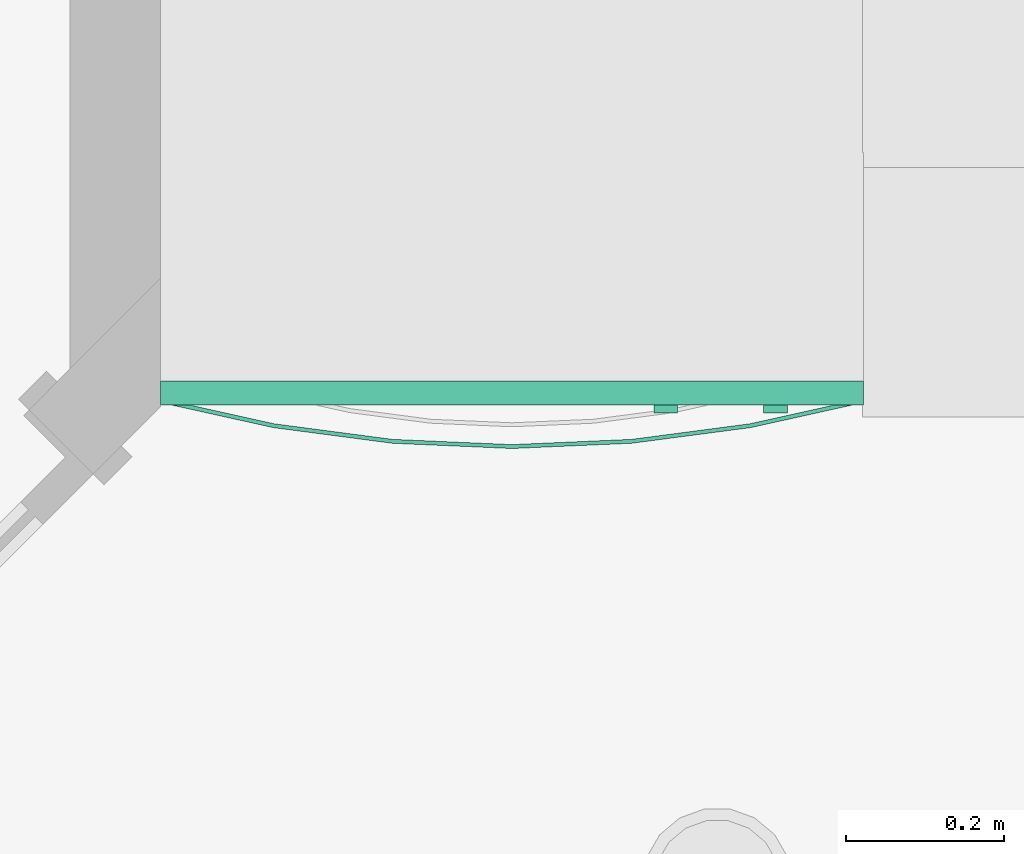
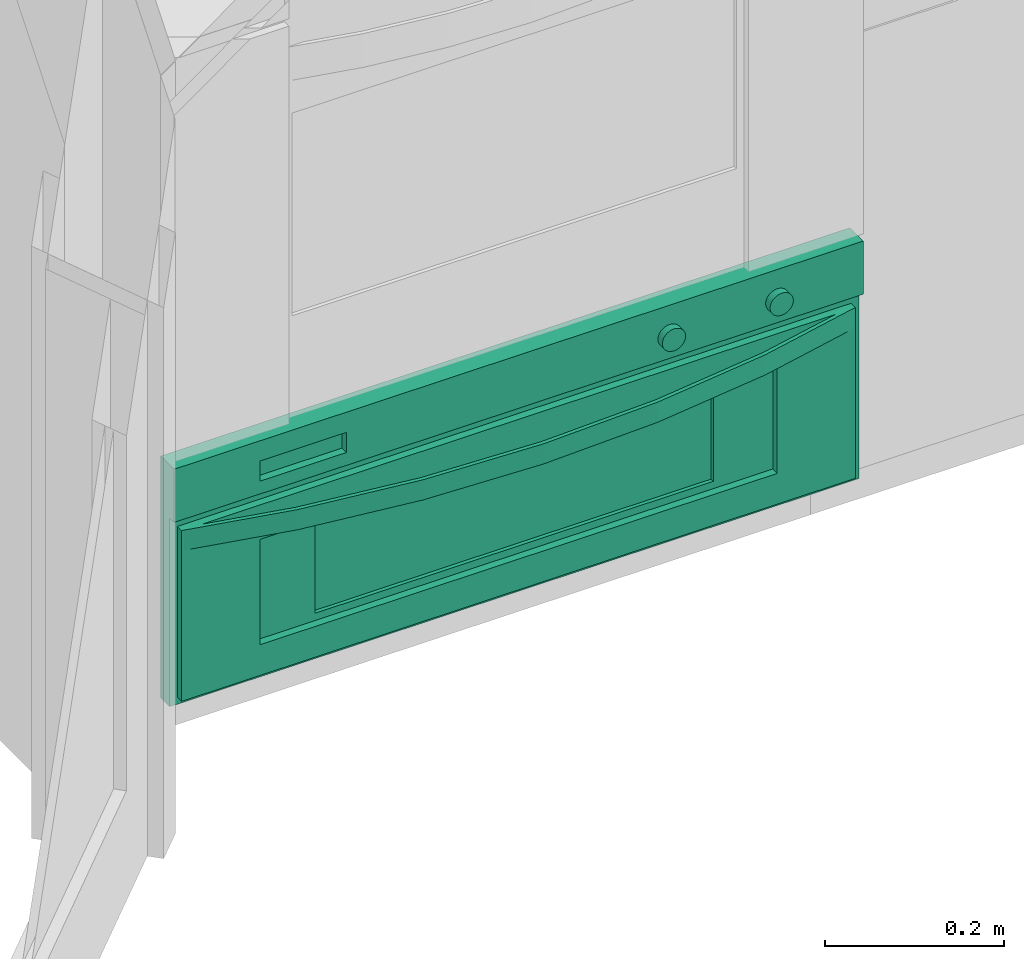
# One storey, part 54 of 77: 1 flow terminal.
"""IFC2X3 building model written with IfcOpenShell, lengths in inches."""

import ifcopenshell
import ifcopenshell.guid

model = None  # the IFC model being written
_history = None  # IfcOwnerHistory: only IFC2X3 demands one
_inside = {}  # id of a spatial element -> (the spatial element, [elements in it])
_under = {}  # id of a project, library or spatial element -> (it, [spatial elements below it])
_declared = {}  # id of a project -> (the project, [libraries it declares])
_typed = {}  # id of a type object -> (the type object, [elements of that type])
_made_of = {}  # id of a material, layer set ... -> (it, [elements and type objects made of it])


def new_model(schema):
    """Start an empty IFC model of exactly this schema.

    Asked for "IFC4X3", IfcOpenShell would pick the latest addendum, in which some entities
    have other attributes; the version numbers below select the first issue.
    IFC2X3 requires an IfcOwnerHistory on every rooted entity: one is made here for all.
    """
    global model, _history
    if schema == "IFC4X3":
        model = ifcopenshell.file(schema_version=(4, 3, 0, 0))
    else:
        model = ifcopenshell.file(schema=schema)
    _inside.clear()
    _under.clear()
    _declared.clear()
    _typed.clear()
    _made_of.clear()
    _history = None
    if model.schema == "IFC2X3":
        org = make("IfcOrganization", Name="unknown")
        user = make(
            "IfcPersonAndOrganization",
            ThePerson=make("IfcPerson", FamilyName="unknown"),
            TheOrganization=org,
        )
        app = make(
            "IfcApplication",
            ApplicationDeveloper=org,
            Version="unknown",
            ApplicationFullName="unknown",
            ApplicationIdentifier="unknown",
        )
        _history = make(
            "IfcOwnerHistory",
            OwningUser=user,
            OwningApplication=app,
            ChangeAction="ADDED",
            CreationDate=0,
        )
    return model


def make(cls, **values):
    """One entity of the class cls with the attributes given. An attribute that is None is left unset."""
    return model.create_entity(
        cls, **{name: value for name, value in values.items() if value is not None}
    )


def entity(cls, *values):
    """Any entity or typed value of the class cls, its attributes in the order of the schema. None: left unset."""
    e = model.create_entity(cls)
    for i, value in enumerate(values):
        if value is not None:
            e[i] = value
    return e


def rooted(cls, **values):
    """An entity with a GlobalId (a new one), such as an element, a storey or a relation."""
    return make(cls, GlobalId=ifcopenshell.guid.new(), OwnerHistory=_history, **values)


def si_unit(unit_type, name, prefix=None):
    """IfcSIUnit, for example si_unit("LENGTHUNIT", "METRE", prefix="MILLI")."""
    return make("IfcSIUnit", UnitType=unit_type, Prefix=prefix, Name=name)


def converted_unit(unit_type, name, factor, base, dimensions=None, offset=None):
    """IfcConversionBasedUnit, such as the inch: factor (a typed value) times the base unit."""
    return make(
        "IfcConversionBasedUnit"
        if offset is None
        else "IfcConversionBasedUnitWithOffset",
        ConversionOffset=offset,
        Dimensions=None
        if dimensions is None
        else entity("IfcDimensionalExponents", *dimensions),
        UnitType=unit_type,
        Name=name,
        ConversionFactor=make(
            "IfcMeasureWithUnit", ValueComponent=factor, UnitComponent=base
        ),
    )


def derived_unit(unit_type, elements):
    """IfcDerivedUnit: a product of units, each with its exponent."""
    return make(
        "IfcDerivedUnit",
        Elements=[
            make("IfcDerivedUnitElement", Unit=unit, Exponent=power)
            for unit, power in elements
        ],
        UnitType=unit_type,
    )


def money_unit(currency):
    """IfcMonetaryUnit."""
    return make("IfcMonetaryUnit", Currency=currency)


def assignment(units):
    """IfcUnitAssignment: the units of a project."""
    return None if units is None else make("IfcUnitAssignment", Units=units)


def point(xyz):
    """IfcCartesianPoint."""
    return None if xyz is None else make("IfcCartesianPoint", Coordinates=xyz)


def direction(xyz):
    """IfcDirection."""
    return None if xyz is None else make("IfcDirection", DirectionRatios=xyz)


def frame(location, z_axis=None, x_axis=None):
    """IfcAxis2Placement3D, a coordinate frame: its origin and axes. An axis left out is left unset."""
    return make(
        "IfcAxis2Placement3D",
        Location=point(location),
        Axis=direction(z_axis),
        RefDirection=direction(x_axis),
    )


def origin_with_axes():
    """The frame at (0, 0, 0) with the z axis (0, 0, 1) and the x axis (1, 0, 0) written out."""
    return frame((0.0, 0.0, 0.0), z_axis=(0.0, 0.0, 1.0), x_axis=(1.0, 0.0, 0.0))


def place(relative_to, where):
    """IfcLocalPlacement: puts the frame where relative to a parent placement (None: the world)."""
    return make(
        "IfcLocalPlacement", PlacementRelTo=relative_to, RelativePlacement=where
    )


def context(
    kind, dimensions, precision=None, world=None, true_north=None, identifier=None
):
    """IfcGeometricRepresentationContext, for example the 3D "Model" context."""
    return make(
        "IfcGeometricRepresentationContext",
        ContextIdentifier=identifier,
        ContextType=kind,
        CoordinateSpaceDimension=dimensions,
        Precision=precision,
        WorldCoordinateSystem=world,
        TrueNorth=true_north,
    )


def subcontext(parent, identifier, kind, view, scale=None):
    """IfcGeometricRepresentationSubContext, for example "Body" below "Model"."""
    return make(
        "IfcGeometricRepresentationSubContext",
        ContextIdentifier=identifier,
        ContextType=kind,
        ParentContext=parent,
        TargetScale=scale,
        TargetView=view,
    )


def project(units=None, contexts=None):
    """IfcProject with its units and contexts."""
    return rooted(
        "IfcProject",
        Name="project",
        RepresentationContexts=contexts,
        UnitsInContext=assignment(units),
    )


def spatial(cls, under=None, at=None, **own):
    """A site, building, storey or space (cls), placed at a placement, below another one or the project."""
    s = rooted(cls, ObjectPlacement=at, **own)
    if under is not None:
        _under.setdefault(under.id(), (under, []))[1].append(s)
    return s


def faces_of(points, faces, orient=None, outer=None):
    """IfcFace entities. A face is a list of loops; a loop is a list of indices into points, from 0.

    orient and outer hold one flag for each loop. By default every Orientation is true, the
    first loop of a face is its IfcFaceOuterBound and the others are IfcFaceBound.
    """
    made = []
    for i, loops in enumerate(faces):
        bounds = []
        for j, loop in enumerate(loops):
            is_outer = j == 0 if outer is None else outer[i][j]
            bounds.append(
                make(
                    "IfcFaceOuterBound" if is_outer else "IfcFaceBound",
                    Bound=make("IfcPolyLoop", Polygon=[points[k] for k in loop]),
                    Orientation=True if orient is None else orient[i][j],
                )
            )
        made.append(make("IfcFace", Bounds=bounds))
    return made


def faceted_brep(points, faces, orient=None, outer=None, voids=None):
    """IfcFacetedBrep: a solid bounded by flat faces; with voids (closed shells), ...WithVoids."""
    shared = [point(p) for p in points]
    hull = make("IfcClosedShell", CfsFaces=faces_of(shared, faces, orient, outer))
    if voids is None:
        return make("IfcFacetedBrep", Outer=hull)
    return make(
        "IfcFacetedBrepWithVoids",
        Outer=hull,
        Voids=[
            make(cls, CfsFaces=faces_of(shared, fs, o, b)) for cls, fs, o, b in voids
        ],
    )


def shape(context_of_items, identifier, shape_type, items):
    """IfcShapeRepresentation: the items that make up one representation, for example the "Body"."""
    return make(
        "IfcShapeRepresentation",
        ContextOfItems=context_of_items,
        RepresentationIdentifier=identifier,
        RepresentationType=shape_type,
        Items=items,
    )


def made_of(thing, what):
    """Note that an element or type object is made of a material, layer set ...; save() writes the relation."""
    if what is not None:
        _made_of.setdefault(what.id(), (what, []))[1].append(thing)
    return thing


def type_object(cls, material=None, **own):
    """A type object (cls), such as IfcWallType, which elements share."""
    return made_of(rooted(cls, **own), material)


def element(
    cls,
    number,
    at=None,
    inside=None,
    cuts=None,
    type_object=None,
    material=None,
    context=None,
    identifier="Body",
    shape_type=None,
    held_by="IfcProductDefinitionShape",
    body=None,
    shapes=None,
    **own,
):
    """One element of the class cls, such as IfcWall. Its Tag is "e" and its number.

    at: its placement. inside: the storey or other place that contains it. cuts: it is an
    opening in that element (IfcRelVoidsElement). A single representation is given by context,
    identifier, shape_type and body (its items); several are given by shapes. held_by: the class
    of the entity that holds the representations. save() writes the other relations.
    """
    e = rooted(cls, Tag="e%d" % number, ObjectPlacement=at, **own)
    if body is not None:
        shapes = [shape(context, identifier, shape_type, body)]
    if shapes is not None:
        e.Representation = make(held_by, Representations=shapes)
    if inside is not None:
        _inside.setdefault(inside.id(), (inside, []))[1].append(e)
    if cuts is not None:
        rooted(
            "IfcRelVoidsElement", RelatingBuildingElement=cuts, RelatedOpeningElement=e
        )
    if type_object is not None:
        _typed.setdefault(type_object.id(), (type_object, []))[1].append(e)
    return made_of(e, material)


def aggregate(whole, parts):
    """IfcRelAggregates: a whole, such as a stair, and the parts it consists of."""
    return rooted("IfcRelAggregates", RelatingObject=whole, RelatedObjects=parts)


def save(model, path):
    """Write the relations noted so far, then the file.

    IfcRelAggregates (storeys below a building ...), IfcRelContainedInSpatialStructure (elements
    in a storey), IfcRelDefinesByType, IfcRelAssociatesMaterial and IfcRelDeclares: one each for
    every whole, place, type object, material and project.
    """
    for whole, parts in _under.values():
        aggregate(whole, parts)
    for where, things in _inside.values():
        rooted(
            "IfcRelContainedInSpatialStructure",
            RelatedElements=things,
            RelatingStructure=where,
        )
    for kind, things in _typed.values():
        rooted("IfcRelDefinesByType", RelatedObjects=things, RelatingType=kind)
    for what, things in _made_of.values():
        rooted("IfcRelAssociatesMaterial", RelatedObjects=things, RelatingMaterial=what)
    for by, libraries in _declared.values():
        rooted("IfcRelDeclares", RelatingContext=by, RelatedDefinitions=libraries)
    model.write(path)


model = new_model("IFC2X3")

# Units and contexts
model_context = context("Model", 3, precision=0.000393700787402, world=origin_with_axes(), true_north=direction((0.0, 1.0)))
body_context = subcontext(model_context, "Body", "Model", "MODEL_VIEW")
ifc_project = project(units=[converted_unit("LENGTHUNIT", "INCH", entity("IfcPositiveLengthMeasure", 0.0254), si_unit("LENGTHUNIT", "METRE"), dimensions=[1, 0, 0, 0, 0, 0, 0]), converted_unit("AREAUNIT", "SQUARE_FOOT", entity("IfcPositiveLengthMeasure", 0.09290304), si_unit("AREAUNIT", "SQUARE_METRE"), dimensions=[2, 0, 0, 0, 0, 0, 0]), si_unit("PLANEANGLEUNIT", "RADIAN"), si_unit("SOLIDANGLEUNIT", "STERADIAN"), money_unit("USD"), converted_unit("TIMEUNIT", "Year", entity("IfcTimeMeasure", 31556926.0), si_unit("TIMEUNIT", "SECOND"), dimensions=[0, 0, 1, 0, 0, 0, 0]), si_unit("MASSUNIT", "GRAM", prefix="KILO"), si_unit("THERMODYNAMICTEMPERATUREUNIT", "DEGREE_CELSIUS"), si_unit("LUMINOUSINTENSITYUNIT", "LUMEN"), si_unit("ENERGYUNIT", "JOULE", prefix="MEGA"), derived_unit("THERMALCONDUCTANCEUNIT", [(si_unit("POWERUNIT", "WATT"), 1), (si_unit("LENGTHUNIT", "METRE"), -1), (si_unit("THERMODYNAMICTEMPERATUREUNIT", "KELVIN"), -1)]), derived_unit("SPECIFICHEATCAPACITYUNIT", [(si_unit("ENERGYUNIT", "JOULE"), 1), (si_unit("MASSUNIT", "GRAM", prefix="KILO"), -1), (si_unit("THERMODYNAMICTEMPERATUREUNIT", "KELVIN"), -1)]), derived_unit("MASSDENSITYUNIT", [(si_unit("MASSUNIT", "GRAM", prefix="KILO"), 1), (si_unit("VOLUMEUNIT", "CUBIC_METRE"), -1)])], contexts=[model_context])

# Site, building, storey
site_placement = place(None, origin_with_axes())
site = spatial("IfcSite", under=ifc_project, at=site_placement, Name="Site", CompositionType="ELEMENT")
building_placement = place(site_placement, origin_with_axes())
building = spatial("IfcBuilding", under=site, at=building_placement, Name="Building", CompositionType="ELEMENT")
storey_placement = place(building_placement, frame((0.0, 0.0, 127.952755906), z_axis=(0.0, 0.0, 1.0), x_axis=(1.0, 0.0, 0.0)))
storey = spatial("IfcBuildingStorey", under=building, at=storey_placement, Name="Second Floor", CompositionType="ELEMENT", Elevation=127.953)

# Flow terminal
electric_appliance_type = type_object("IfcElectricApplianceType", Name="Oven Built-in 25", PredefinedType="NOTDEFINED")
flow_terminal_placement = place(storey_placement, frame((511.489643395, 384.399400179, 4.52755905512), z_axis=(0.0, 0.0, 1.0), x_axis=(1.0, 0.0, 0.0)))
element("IfcFlowTerminal", 1, at=flow_terminal_placement, inside=storey, type_object=electric_appliance_type, Name="OBJ-20", context=body_context, shape_type="Brep", body=[
    faceted_brep([(0.0, 0.787401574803, 0.0), (35.0393700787, 0.787401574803, 0.0), (35.0393700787, 0.0, 0.0), (0.0, 0.0, 0.0), (0.0, 0.787401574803, 13.0), (35.0393700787, 0.787401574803, 13.0), (7.40157480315, 0.787401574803, 2.4375), (27.6377952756, 0.787401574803, 2.4375), (27.6377952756, 0.787401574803, 7.3125), (7.40157480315, 0.787401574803, 7.3125), (35.0393700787, 0.0, 13.0), (0.0, 0.0, 13.0), (7.40157480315, 0.0, 2.4375), (7.40157480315, 0.0, 7.3125), (27.6377952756, 0.0, 7.3125), (27.6377952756, 0.0, 2.4375)], [[[0, 1, 2, 3]], [[0, 4, 5, 1], [6, 7, 8, 9]], [[1, 5, 10, 2]], [[3, 2, 10, 11], [12, 13, 14, 15]], [[4, 0, 3, 11]], [[5, 4, 11, 10]], [[7, 6, 12, 15]], [[8, 7, 15, 14]], [[9, 8, 14, 13]], [[6, 9, 13, 12]]]),
    faceted_brep([(7.40157480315, 0.590551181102, 2.4375), (27.6377952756, 0.590551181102, 2.4375), (27.6377952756, 0.196850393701, 2.4375), (7.40157480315, 0.196850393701, 2.4375), (7.40157480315, 0.590551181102, 7.3125), (27.6377952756, 0.590551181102, 7.3125), (27.6377952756, 0.196850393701, 7.3125), (7.40157480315, 0.196850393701, 7.3125)], [[[0, 1, 2, 3]], [[0, 4, 5, 1]], [[1, 5, 6, 2]], [[3, 2, 6, 7]], [[4, 0, 3, 7]], [[5, 4, 7, 6]]]),
    faceted_brep([(0.393700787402, 0.0, 0.393700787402), (34.6456692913, 0.0, 0.393700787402), (34.6456692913, -0.393700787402, 0.393700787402), (0.393700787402, -0.393700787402, 0.393700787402), (0.393700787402, 0.0, 9.5531496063), (34.6456692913, 0.0, 9.5531496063), (4.37992125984, 0.0, 2.0437992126), (30.6594488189, 0.0, 2.0437992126), (30.6594488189, 0.0, 7.7062007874), (4.37992125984, 0.0, 7.7062007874), (34.6456692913, -0.393700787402, 9.5531496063), (0.393700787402, -0.393700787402, 9.5531496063), (4.37992125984, -0.393700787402, 2.0437992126), (4.37992125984, -0.393700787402, 7.7062007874), (30.6594488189, -0.393700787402, 7.7062007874), (30.6594488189, -0.393700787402, 2.0437992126)], [[[0, 1, 2, 3]], [[0, 4, 5, 1], [6, 7, 8, 9]], [[1, 5, 10, 2]], [[3, 2, 10, 11], [12, 13, 14, 15]], [[4, 0, 3, 11]], [[5, 4, 11, 10]], [[7, 6, 12, 15]], [[8, 7, 15, 14]], [[9, 8, 14, 13]], [[6, 9, 13, 12]]]),
    faceted_brep([(0.0, 0.0, 10.1437007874), (35.0393700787, 0.0, 10.1437007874), (35.0393700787, -0.393700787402, 10.1437007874), (0.0, -0.393700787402, 10.1437007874), (0.0, 0.0, 13.0), (35.0393700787, 0.0, 13.0), (4.37992125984, 0.0, 11.9166666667), (4.37992125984, 0.0, 10.8333333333), (8.75984251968, 0.0, 10.8333333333), (8.75984251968, 0.0, 11.9166666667), (35.0393700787, -0.393700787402, 13.0), (0.0, -0.393700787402, 13.0), (4.37992125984, -0.393700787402, 11.9166666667), (8.75984251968, -0.393700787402, 11.9166666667), (8.75984251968, -0.393700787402, 10.8333333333), (4.37992125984, -0.393700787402, 10.8333333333)], [[[0, 1, 2, 3]], [[0, 4, 5, 1], [6, 7, 8, 9]], [[1, 5, 10, 2]], [[3, 2, 10, 11], [12, 13, 14, 15]], [[4, 0, 3, 11]], [[5, 4, 11, 10]], [[7, 6, 12, 15]], [[8, 7, 15, 14]], [[9, 8, 14, 13]], [[6, 9, 13, 12]]]),
    faceted_brep([(0.506447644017, -0.393700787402, 8.46981627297), (5.62410121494, -1.52825726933, 8.46981627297), (5.62410121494, -1.52825726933, 9.5531496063), (0.506447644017, -0.393700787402, 9.5531496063), (34.5329224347, -0.393700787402, 8.46981627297), (29.4152688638, -1.52825726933, 8.46981627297), (23.4901965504, -2.30830783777, 8.46981627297), (17.5196850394, -2.56898599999, 8.46981627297), (11.5491735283, -2.30830783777, 8.46981627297), (1.41507537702, -0.393700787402, 8.46981627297), (5.65828392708, -1.33439747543, 8.46981627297), (11.5663301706, -2.11220651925, 8.46981627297), (17.5196850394, -2.37213560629, 8.46981627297), (23.4730399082, -2.11220651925, 8.46981627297), (29.3810861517, -1.33439747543, 8.46981627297), (33.6242947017, -0.393700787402, 8.46981627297), (11.5491735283, -2.30830783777, 9.5531496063), (17.5196850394, -2.56898599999, 9.5531496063), (23.4901965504, -2.30830783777, 9.5531496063), (29.4152688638, -1.52825726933, 9.5531496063), (34.5329224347, -0.393700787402, 9.5531496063), (33.6242947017, -0.393700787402, 9.5531496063), (29.3810861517, -1.33439747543, 9.5531496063), (23.4730399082, -2.11220651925, 9.5531496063), (17.5196850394, -2.37213560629, 9.5531496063), (11.5663301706, -2.11220651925, 9.5531496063), (5.65828392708, -1.33439747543, 9.5531496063), (1.41507537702, -0.393700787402, 9.5531496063)], [[[0, 1, 2, 3]], [[4, 5, 6, 7, 8, 1, 0, 9, 10, 11, 12, 13, 14, 15]], [[1, 8, 16, 2]], [[3, 2, 16, 17, 18, 19, 20, 21, 22, 23, 24, 25, 26, 27]], [[0, 3, 27, 9]], [[5, 4, 20, 19]], [[6, 5, 19, 18]], [[7, 6, 18, 17]], [[8, 7, 17, 16]], [[10, 9, 27, 26]], [[11, 10, 26, 25]], [[12, 11, 25, 24]], [[13, 12, 24, 23]], [[14, 13, 23, 22]], [[15, 14, 22, 21]], [[4, 15, 21, 20]]]),
    faceted_brep([(31.2477527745, -0.393700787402, 11.3235300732), (31.2410282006, -0.393700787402, 11.2724518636), (31.2298774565, -0.393700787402, 11.2221541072), (31.214385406, -0.393700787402, 11.1730196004), (31.194669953, -0.393700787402, 11.1254222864), (31.170881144, -0.393700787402, 11.0797244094), (31.1432000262, -0.393700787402, 11.0362737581), (31.1118372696, -0.393700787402, 10.9954010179), (31.0770315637, -0.393700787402, 10.9574172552), (31.039047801, -0.393700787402, 10.9226115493), (30.9981750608, -0.393700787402, 10.8912487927), (30.9547244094, -0.393700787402, 10.8635676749), (30.9090265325, -0.393700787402, 10.8397788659), (30.8614292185, -0.393700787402, 10.8200634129), (30.8122947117, -0.393700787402, 10.8045713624), (30.7619969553, -0.393700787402, 10.7934206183), (30.7109187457, -0.393700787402, 10.7866960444), (30.6594488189, -0.393700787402, 10.7844488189), (30.6079788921, -0.393700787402, 10.7866960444), (30.5569006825, -0.393700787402, 10.7934206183), (30.5066029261, -0.393700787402, 10.8045713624), (30.4574684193, -0.393700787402, 10.8200634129), (30.4098711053, -0.393700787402, 10.8397788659), (30.3641732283, -0.393700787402, 10.8635676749), (30.320722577, -0.393700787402, 10.8912487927), (30.2798498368, -0.393700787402, 10.9226115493), (30.2418660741, -0.393700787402, 10.9574172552), (30.2070603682, -0.393700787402, 10.9954010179), (30.1756976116, -0.393700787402, 11.0362737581), (30.1480164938, -0.393700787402, 11.0797244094), (30.1242276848, -0.393700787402, 11.1254222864), (30.1045122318, -0.393700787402, 11.1730196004), (30.0890201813, -0.393700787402, 11.2221541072), (30.0778694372, -0.393700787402, 11.2724518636), (30.0711448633, -0.393700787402, 11.3235300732), (30.0688976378, -0.393700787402, 11.375), (30.0711448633, -0.393700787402, 11.4264699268), (30.0778694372, -0.393700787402, 11.4775481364), (30.0890201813, -0.393700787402, 11.5278458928), (30.1045122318, -0.393700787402, 11.5769803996), (30.1242276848, -0.393700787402, 11.6245777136), (30.1480164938, -0.393700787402, 11.6702755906), (30.1756976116, -0.393700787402, 11.7137262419), (30.2070603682, -0.393700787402, 11.7545989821), (30.2418660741, -0.393700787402, 11.7925827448), (30.2798498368, -0.393700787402, 11.8273884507), (30.320722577, -0.393700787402, 11.8587512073), (30.3641732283, -0.393700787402, 11.8864323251), (30.4098711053, -0.393700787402, 11.9102211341), (30.4574684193, -0.393700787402, 11.9299365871), (30.5066029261, -0.393700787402, 11.9454286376), (30.5569006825, -0.393700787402, 11.9565793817), (30.6079788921, -0.393700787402, 11.9633039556), (30.6594488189, -0.393700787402, 11.9655511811), (30.7109187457, -0.393700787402, 11.9633039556), (30.7619969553, -0.393700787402, 11.9565793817), (30.8122947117, -0.393700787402, 11.9454286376), (30.8614292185, -0.393700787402, 11.9299365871), (30.9090265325, -0.393700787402, 11.9102211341), (30.9547244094, -0.393700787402, 11.8864323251), (30.9981750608, -0.393700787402, 11.8587512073), (31.039047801, -0.393700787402, 11.8273884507), (31.0770315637, -0.393700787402, 11.7925827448), (31.1118372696, -0.393700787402, 11.7545989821), (31.1432000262, -0.393700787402, 11.7137262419), (31.170881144, -0.393700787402, 11.6702755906), (31.194669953, -0.393700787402, 11.6245777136), (31.214385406, -0.393700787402, 11.5769803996), (31.2298774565, -0.393700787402, 11.5278458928), (31.2410282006, -0.393700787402, 11.4775481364), (31.2477527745, -0.393700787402, 11.4264699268), (31.25, -0.393700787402, 11.375), (31.2477527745, -0.787401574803, 11.3235300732), (31.2410282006, -0.787401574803, 11.2724518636), (31.2298774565, -0.787401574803, 11.2221541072), (31.214385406, -0.787401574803, 11.1730196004), (31.194669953, -0.787401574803, 11.1254222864), (31.170881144, -0.787401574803, 11.0797244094), (31.1432000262, -0.787401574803, 11.0362737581), (31.1118372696, -0.787401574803, 10.9954010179), (31.0770315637, -0.787401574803, 10.9574172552), (31.039047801, -0.787401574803, 10.9226115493), (30.9981750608, -0.787401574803, 10.8912487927), (30.9547244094, -0.787401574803, 10.8635676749), (30.9090265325, -0.787401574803, 10.8397788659), (30.8614292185, -0.787401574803, 10.8200634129), (30.8122947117, -0.787401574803, 10.8045713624), (30.7619969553, -0.787401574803, 10.7934206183), (30.7109187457, -0.787401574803, 10.7866960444), (30.6594488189, -0.787401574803, 10.7844488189), (30.6079788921, -0.787401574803, 10.7866960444), (30.5569006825, -0.787401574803, 10.7934206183), (30.5066029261, -0.787401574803, 10.8045713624), (30.4574684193, -0.787401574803, 10.8200634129), (30.4098711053, -0.787401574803, 10.8397788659), (30.3641732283, -0.787401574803, 10.8635676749), (30.320722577, -0.787401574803, 10.8912487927), (30.2798498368, -0.787401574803, 10.9226115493), (30.2418660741, -0.787401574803, 10.9574172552), (30.2070603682, -0.787401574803, 10.9954010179), (30.1756976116, -0.787401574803, 11.0362737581), (30.1480164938, -0.787401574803, 11.0797244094), (30.1242276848, -0.787401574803, 11.1254222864), (30.1045122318, -0.787401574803, 11.1730196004), (30.0890201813, -0.787401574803, 11.2221541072), (30.0778694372, -0.787401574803, 11.2724518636), (30.0711448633, -0.787401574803, 11.3235300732), (30.0688976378, -0.787401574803, 11.375), (30.0711448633, -0.787401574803, 11.4264699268), (30.0778694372, -0.787401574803, 11.4775481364), (30.0890201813, -0.787401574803, 11.5278458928), (30.1045122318, -0.787401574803, 11.5769803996), (30.1242276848, -0.787401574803, 11.6245777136), (30.1480164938, -0.787401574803, 11.6702755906), (30.1756976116, -0.787401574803, 11.7137262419), (30.2070603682, -0.787401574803, 11.7545989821), (30.2418660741, -0.787401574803, 11.7925827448), (30.2798498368, -0.787401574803, 11.8273884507), (30.320722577, -0.787401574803, 11.8587512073), (30.3641732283, -0.787401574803, 11.8864323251), (30.4098711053, -0.787401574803, 11.9102211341), (30.4574684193, -0.787401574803, 11.9299365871), (30.5066029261, -0.787401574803, 11.9454286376), (30.5569006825, -0.787401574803, 11.9565793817), (30.6079788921, -0.787401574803, 11.9633039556), (30.6594488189, -0.787401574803, 11.9655511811), (30.7109187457, -0.787401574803, 11.9633039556), (30.7619969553, -0.787401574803, 11.9565793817), (30.8122947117, -0.787401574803, 11.9454286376), (30.8614292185, -0.787401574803, 11.9299365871), (30.9090265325, -0.787401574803, 11.9102211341), (30.9547244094, -0.787401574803, 11.8864323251), (30.9981750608, -0.787401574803, 11.8587512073), (31.039047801, -0.787401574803, 11.8273884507), (31.0770315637, -0.787401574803, 11.7925827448), (31.1118372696, -0.787401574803, 11.7545989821), (31.1432000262, -0.787401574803, 11.7137262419), (31.170881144, -0.787401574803, 11.6702755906), (31.194669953, -0.787401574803, 11.6245777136), (31.214385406, -0.787401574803, 11.5769803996), (31.2298774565, -0.787401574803, 11.5278458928), (31.2410282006, -0.787401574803, 11.4775481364), (31.2477527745, -0.787401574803, 11.4264699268), (31.25, -0.787401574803, 11.375)], [[[0, 1, 2, 3, 4, 5, 6, 7, 8, 9, 10, 11, 12, 13, 14, 15, 16, 17, 18, 19, 20, 21, 22, 23, 24, 25, 26, 27, 28, 29, 30, 31, 32, 33, 34, 35, 36, 37, 38, 39, 40, 41, 42, 43, 44, 45, 46, 47, 48, 49, 50, 51, 52, 53, 54, 55, 56, 57, 58, 59, 60, 61, 62, 63, 64, 65, 66, 67, 68, 69, 70, 71]], [[1, 0, 72, 73]], [[2, 1, 73, 74]], [[3, 2, 74, 75]], [[4, 3, 75, 76]], [[5, 4, 76, 77]], [[6, 5, 77, 78]], [[7, 6, 78, 79]], [[8, 7, 79, 80]], [[9, 8, 80, 81]], [[10, 9, 81, 82]], [[11, 10, 82, 83]], [[12, 11, 83, 84]], [[13, 12, 84, 85]], [[14, 13, 85, 86]], [[15, 14, 86, 87]], [[16, 15, 87, 88]], [[17, 16, 88, 89]], [[18, 17, 89, 90]], [[19, 18, 90, 91]], [[20, 19, 91, 92]], [[21, 20, 92, 93]], [[22, 21, 93, 94]], [[23, 22, 94, 95]], [[24, 23, 95, 96]], [[25, 24, 96, 97]], [[26, 25, 97, 98]], [[27, 26, 98, 99]], [[28, 27, 99, 100]], [[29, 28, 100, 101]], [[30, 29, 101, 102]], [[31, 30, 102, 103]], [[32, 31, 103, 104]], [[33, 32, 104, 105]], [[34, 33, 105, 106]], [[35, 34, 106, 107]], [[36, 35, 107, 108]], [[37, 36, 108, 109]], [[38, 37, 109, 110]], [[39, 38, 110, 111]], [[40, 39, 111, 112]], [[41, 40, 112, 113]], [[42, 41, 113, 114]], [[43, 42, 114, 115]], [[44, 43, 115, 116]], [[45, 44, 116, 117]], [[46, 45, 117, 118]], [[47, 46, 118, 119]], [[48, 47, 119, 120]], [[49, 48, 120, 121]], [[50, 49, 121, 122]], [[51, 50, 122, 123]], [[52, 51, 123, 124]], [[53, 52, 124, 125]], [[54, 53, 125, 126]], [[55, 54, 126, 127]], [[56, 55, 127, 128]], [[57, 56, 128, 129]], [[58, 57, 129, 130]], [[59, 58, 130, 131]], [[60, 59, 131, 132]], [[61, 60, 132, 133]], [[62, 61, 133, 134]], [[63, 62, 134, 135]], [[64, 63, 135, 136]], [[65, 64, 136, 137]], [[66, 65, 137, 138]], [[67, 66, 138, 139]], [[68, 67, 139, 140]], [[69, 68, 140, 141]], [[70, 69, 141, 142]], [[71, 70, 142, 143]], [[0, 71, 143, 72]], [[72, 143, 142, 141, 140, 139, 138, 137, 136, 135, 134, 133, 132, 131, 130, 129, 128, 127, 126, 125, 124, 123, 122, 121, 120, 119, 118, 117, 116, 115, 114, 113, 112, 111, 110, 109, 108, 107, 106, 105, 104, 103, 102, 101, 100, 99, 98, 97, 96, 95, 94, 93, 92, 91, 90, 89, 88, 87, 86, 85, 84, 83, 82, 81, 80, 79, 78, 77, 76, 75, 74, 73]]]),
    faceted_brep([(25.7728511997, -0.393700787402, 11.3235300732), (25.7661266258, -0.393700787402, 11.2724518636), (25.7549758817, -0.393700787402, 11.2221541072), (25.7394838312, -0.393700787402, 11.1730196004), (25.7197683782, -0.393700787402, 11.1254222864), (25.6959795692, -0.393700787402, 11.0797244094), (25.6682984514, -0.393700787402, 11.0362737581), (25.6369356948, -0.393700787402, 10.9954010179), (25.6021299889, -0.393700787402, 10.9574172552), (25.5641462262, -0.393700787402, 10.9226115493), (25.523273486, -0.393700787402, 10.8912487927), (25.4798228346, -0.393700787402, 10.8635676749), (25.4341249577, -0.393700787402, 10.8397788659), (25.3865276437, -0.393700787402, 10.8200634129), (25.3373931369, -0.393700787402, 10.8045713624), (25.2870953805, -0.393700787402, 10.7934206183), (25.2360171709, -0.393700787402, 10.7866960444), (25.1845472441, -0.393700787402, 10.7844488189), (25.1330773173, -0.393700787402, 10.7866960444), (25.0819991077, -0.393700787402, 10.7934206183), (25.0317013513, -0.393700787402, 10.8045713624), (24.9825668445, -0.393700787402, 10.8200634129), (24.9349695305, -0.393700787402, 10.8397788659), (24.8892716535, -0.393700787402, 10.8635676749), (24.8458210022, -0.393700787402, 10.8912487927), (24.804948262, -0.393700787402, 10.9226115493), (24.7669644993, -0.393700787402, 10.9574172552), (24.7321587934, -0.393700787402, 10.9954010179), (24.7007960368, -0.393700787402, 11.0362737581), (24.673114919, -0.393700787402, 11.0797244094), (24.64932611, -0.393700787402, 11.1254222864), (24.629610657, -0.393700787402, 11.1730196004), (24.6141186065, -0.393700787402, 11.2221541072), (24.6029678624, -0.393700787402, 11.2724518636), (24.5962432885, -0.393700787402, 11.3235300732), (24.593996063, -0.393700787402, 11.375), (24.5962432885, -0.393700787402, 11.4264699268), (24.6029678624, -0.393700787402, 11.4775481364), (24.6141186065, -0.393700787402, 11.5278458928), (24.629610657, -0.393700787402, 11.5769803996), (24.64932611, -0.393700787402, 11.6245777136), (24.673114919, -0.393700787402, 11.6702755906), (24.7007960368, -0.393700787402, 11.7137262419), (24.7321587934, -0.393700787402, 11.7545989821), (24.7669644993, -0.393700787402, 11.7925827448), (24.804948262, -0.393700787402, 11.8273884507), (24.8458210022, -0.393700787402, 11.8587512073), (24.8892716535, -0.393700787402, 11.8864323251), (24.9349695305, -0.393700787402, 11.9102211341), (24.9825668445, -0.393700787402, 11.9299365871), (25.0317013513, -0.393700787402, 11.9454286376), (25.0819991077, -0.393700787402, 11.9565793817), (25.1330773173, -0.393700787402, 11.9633039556), (25.1845472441, -0.393700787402, 11.9655511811), (25.2360171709, -0.393700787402, 11.9633039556), (25.2870953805, -0.393700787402, 11.9565793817), (25.3373931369, -0.393700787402, 11.9454286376), (25.3865276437, -0.393700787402, 11.9299365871), (25.4341249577, -0.393700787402, 11.9102211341), (25.4798228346, -0.393700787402, 11.8864323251), (25.523273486, -0.393700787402, 11.8587512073), (25.5641462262, -0.393700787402, 11.8273884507), (25.6021299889, -0.393700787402, 11.7925827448), (25.6369356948, -0.393700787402, 11.7545989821), (25.6682984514, -0.393700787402, 11.7137262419), (25.6959795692, -0.393700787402, 11.6702755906), (25.7197683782, -0.393700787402, 11.6245777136), (25.7394838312, -0.393700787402, 11.5769803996), (25.7549758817, -0.393700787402, 11.5278458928), (25.7661266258, -0.393700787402, 11.4775481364), (25.7728511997, -0.393700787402, 11.4264699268), (25.7750984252, -0.393700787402, 11.375), (25.7728511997, -0.787401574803, 11.3235300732), (25.7661266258, -0.787401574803, 11.2724518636), (25.7549758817, -0.787401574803, 11.2221541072), (25.7394838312, -0.787401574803, 11.1730196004), (25.7197683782, -0.787401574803, 11.1254222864), (25.6959795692, -0.787401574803, 11.0797244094), (25.6682984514, -0.787401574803, 11.0362737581), (25.6369356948, -0.787401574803, 10.9954010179), (25.6021299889, -0.787401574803, 10.9574172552), (25.5641462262, -0.787401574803, 10.9226115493), (25.523273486, -0.787401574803, 10.8912487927), (25.4798228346, -0.787401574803, 10.8635676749), (25.4341249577, -0.787401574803, 10.8397788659), (25.3865276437, -0.787401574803, 10.8200634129), (25.3373931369, -0.787401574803, 10.8045713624), (25.2870953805, -0.787401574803, 10.7934206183), (25.2360171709, -0.787401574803, 10.7866960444), (25.1845472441, -0.787401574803, 10.7844488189), (25.1330773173, -0.787401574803, 10.7866960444), (25.0819991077, -0.787401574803, 10.7934206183), (25.0317013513, -0.787401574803, 10.8045713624), (24.9825668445, -0.787401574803, 10.8200634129), (24.9349695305, -0.787401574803, 10.8397788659), (24.8892716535, -0.787401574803, 10.8635676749), (24.8458210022, -0.787401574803, 10.8912487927), (24.804948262, -0.787401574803, 10.9226115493), (24.7669644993, -0.787401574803, 10.9574172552), (24.7321587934, -0.787401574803, 10.9954010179), (24.7007960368, -0.787401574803, 11.0362737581), (24.673114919, -0.787401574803, 11.0797244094), (24.64932611, -0.787401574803, 11.1254222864), (24.629610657, -0.787401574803, 11.1730196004), (24.6141186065, -0.787401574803, 11.2221541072), (24.6029678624, -0.787401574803, 11.2724518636), (24.5962432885, -0.787401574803, 11.3235300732), (24.593996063, -0.787401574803, 11.375), (24.5962432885, -0.787401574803, 11.4264699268), (24.6029678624, -0.787401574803, 11.4775481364), (24.6141186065, -0.787401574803, 11.5278458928), (24.629610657, -0.787401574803, 11.5769803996), (24.64932611, -0.787401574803, 11.6245777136), (24.673114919, -0.787401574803, 11.6702755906), (24.7007960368, -0.787401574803, 11.7137262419), (24.7321587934, -0.787401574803, 11.7545989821), (24.7669644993, -0.787401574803, 11.7925827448), (24.804948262, -0.787401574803, 11.8273884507), (24.8458210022, -0.787401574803, 11.8587512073), (24.8892716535, -0.787401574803, 11.8864323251), (24.9349695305, -0.787401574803, 11.9102211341), (24.9825668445, -0.787401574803, 11.9299365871), (25.0317013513, -0.787401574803, 11.9454286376), (25.0819991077, -0.787401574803, 11.9565793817), (25.1330773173, -0.787401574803, 11.9633039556), (25.1845472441, -0.787401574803, 11.9655511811), (25.2360171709, -0.787401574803, 11.9633039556), (25.2870953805, -0.787401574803, 11.9565793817), (25.3373931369, -0.787401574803, 11.9454286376), (25.3865276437, -0.787401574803, 11.9299365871), (25.4341249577, -0.787401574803, 11.9102211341), (25.4798228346, -0.787401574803, 11.8864323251), (25.523273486, -0.787401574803, 11.8587512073), (25.5641462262, -0.787401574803, 11.8273884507), (25.6021299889, -0.787401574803, 11.7925827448), (25.6369356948, -0.787401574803, 11.7545989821), (25.6682984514, -0.787401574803, 11.7137262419), (25.6959795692, -0.787401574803, 11.6702755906), (25.7197683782, -0.787401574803, 11.6245777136), (25.7394838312, -0.787401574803, 11.5769803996), (25.7549758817, -0.787401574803, 11.5278458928), (25.7661266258, -0.787401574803, 11.4775481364), (25.7728511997, -0.787401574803, 11.4264699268), (25.7750984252, -0.787401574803, 11.375)], [[[0, 1, 2, 3, 4, 5, 6, 7, 8, 9, 10, 11, 12, 13, 14, 15, 16, 17, 18, 19, 20, 21, 22, 23, 24, 25, 26, 27, 28, 29, 30, 31, 32, 33, 34, 35, 36, 37, 38, 39, 40, 41, 42, 43, 44, 45, 46, 47, 48, 49, 50, 51, 52, 53, 54, 55, 56, 57, 58, 59, 60, 61, 62, 63, 64, 65, 66, 67, 68, 69, 70, 71]], [[1, 0, 72, 73]], [[2, 1, 73, 74]], [[3, 2, 74, 75]], [[4, 3, 75, 76]], [[5, 4, 76, 77]], [[6, 5, 77, 78]], [[7, 6, 78, 79]], [[8, 7, 79, 80]], [[9, 8, 80, 81]], [[10, 9, 81, 82]], [[11, 10, 82, 83]], [[12, 11, 83, 84]], [[13, 12, 84, 85]], [[14, 13, 85, 86]], [[15, 14, 86, 87]], [[16, 15, 87, 88]], [[17, 16, 88, 89]], [[18, 17, 89, 90]], [[19, 18, 90, 91]], [[20, 19, 91, 92]], [[21, 20, 92, 93]], [[22, 21, 93, 94]], [[23, 22, 94, 95]], [[24, 23, 95, 96]], [[25, 24, 96, 97]], [[26, 25, 97, 98]], [[27, 26, 98, 99]], [[28, 27, 99, 100]], [[29, 28, 100, 101]], [[30, 29, 101, 102]], [[31, 30, 102, 103]], [[32, 31, 103, 104]], [[33, 32, 104, 105]], [[34, 33, 105, 106]], [[35, 34, 106, 107]], [[36, 35, 107, 108]], [[37, 36, 108, 109]], [[38, 37, 109, 110]], [[39, 38, 110, 111]], [[40, 39, 111, 112]], [[41, 40, 112, 113]], [[42, 41, 113, 114]], [[43, 42, 114, 115]], [[44, 43, 115, 116]], [[45, 44, 116, 117]], [[46, 45, 117, 118]], [[47, 46, 118, 119]], [[48, 47, 119, 120]], [[49, 48, 120, 121]], [[50, 49, 121, 122]], [[51, 50, 122, 123]], [[52, 51, 123, 124]], [[53, 52, 124, 125]], [[54, 53, 125, 126]], [[55, 54, 126, 127]], [[56, 55, 127, 128]], [[57, 56, 128, 129]], [[58, 57, 129, 130]], [[59, 58, 130, 131]], [[60, 59, 131, 132]], [[61, 60, 132, 133]], [[62, 61, 133, 134]], [[63, 62, 134, 135]], [[64, 63, 135, 136]], [[65, 64, 136, 137]], [[66, 65, 137, 138]], [[67, 66, 138, 139]], [[68, 67, 139, 140]], [[69, 68, 140, 141]], [[70, 69, 141, 142]], [[71, 70, 142, 143]], [[0, 71, 143, 72]], [[72, 143, 142, 141, 140, 139, 138, 137, 136, 135, 134, 133, 132, 131, 130, 129, 128, 127, 126, 125, 124, 123, 122, 121, 120, 119, 118, 117, 116, 115, 114, 113, 112, 111, 110, 109, 108, 107, 106, 105, 104, 103, 102, 101, 100, 99, 98, 97, 96, 95, 94, 93, 92, 91, 90, 89, 88, 87, 86, 85, 84, 83, 82, 81, 80, 79, 78, 77, 76, 75, 74, 73]]]),
])

save(model, "model.ifc")
